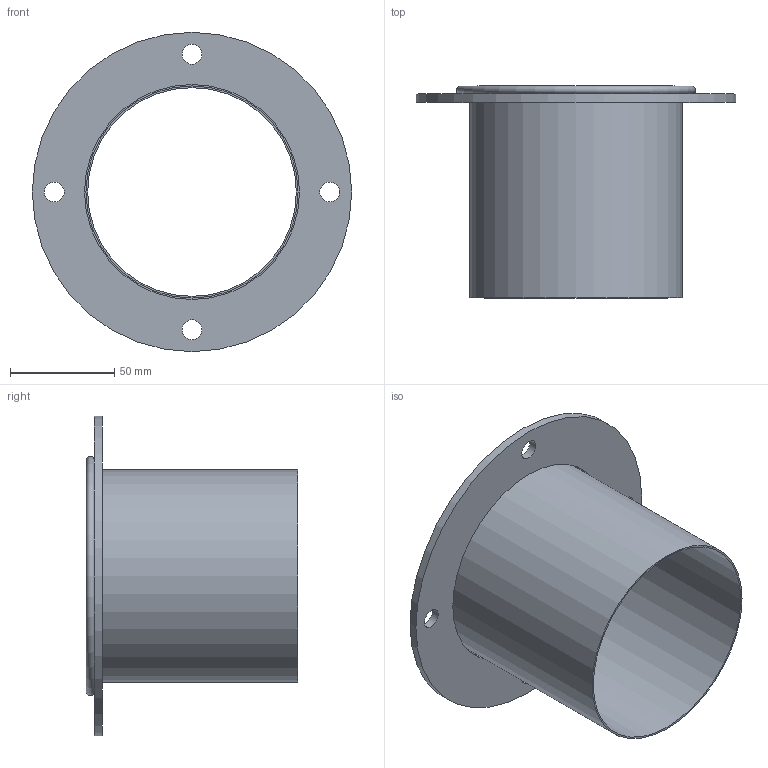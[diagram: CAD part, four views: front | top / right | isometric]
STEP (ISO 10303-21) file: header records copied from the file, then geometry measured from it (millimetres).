
FILE_DESCRIPTION(/* description */ (''),/* implementation_level */ '2;1');
FILE_NAME(/* name */ 'METU_AA120-41B_100_L100.stp',/* time_stamp */ '2018-10-10T11:34:43+02:00',/* author */ (''),/* organization */ (''),/* preprocessor_version */ 'ST-DEVELOPER v11',/* originating_system */ 'SIEMENS UGS NX 6.0',/* authorisation */ '');
FILE_SCHEMA (('CONFIG_CONTROL_DESIGN'));
Length unit declared in the file: millimetre
Products named in the file (1): garsCF17ddsh
Bounding box: 153 x 101.5 x 153 mm (x, y, z)
Volume: 72583.3 mm3; surface area: 100620 mm2
Topology: 3 solids, 3 shells, 23 faces, 47 edges, 33 vertices
Faces by surface type: cylinder 12, plane 9, torus 2
Full cylindrical faces by diameter (mm): 9.5 x4, 100 x2, 101.6 x2, 103 x1, 111.6 x2, 153 x1
Entity records: 614 total; most frequent: DIRECTION 102, CARTESIAN_POINT 78, FACE_BOUND 54, EDGE_LOOP 54, ORIENTED_EDGE 54, AXIS2_PLACEMENT_3D 51, VERTEX_POINT 27, EDGE_CURVE 27
